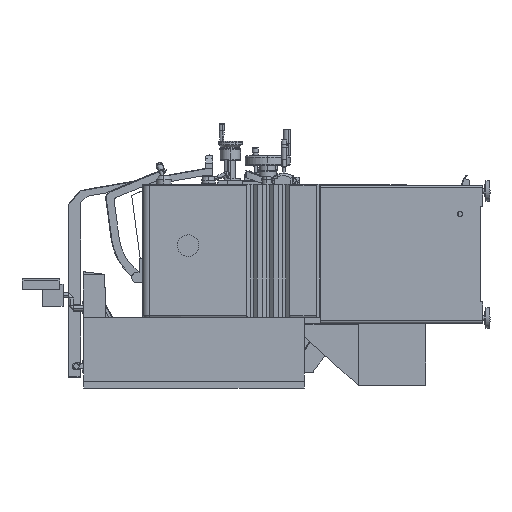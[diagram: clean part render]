
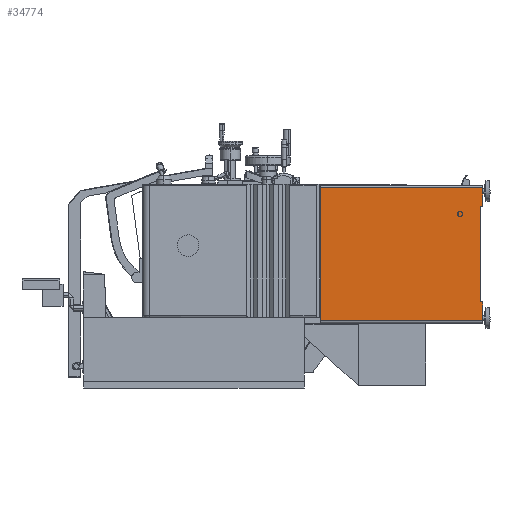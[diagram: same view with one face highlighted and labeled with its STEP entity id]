
A CAD part, left-side view. The second image highlights one B-rep face of the part: STEP entity #34774.
In plain terms, the highlighted planar face has unit normal (-1, 0, 0).
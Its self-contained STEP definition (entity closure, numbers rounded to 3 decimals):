
#936 = FACE_OUTER_BOUND ( 'NONE', #263981, .T. ) ;
#1186 = LINE ( 'NONE', #104452, #245798 ) ;
#4468 = DIRECTION ( 'NONE',  ( 0., 0., -1. ) ) ;
#5913 = CARTESIAN_POINT ( 'NONE',  ( -31.102, -33.661, -10.945 ) ) ;
#20290 = EDGE_CURVE ( 'NONE', #181302, #81983, #177793, .T. ) ;
#24485 = CARTESIAN_POINT ( 'NONE',  ( -31.102, -33.661, -7.795 ) ) ;
#27703 = ORIENTED_EDGE ( 'NONE', *, *, #220255, .F. ) ;
#33833 = LINE ( 'NONE', #207152, #198829 ) ;
#34774 = ADVANCED_FACE ( 'NONE', ( #936 ), #279183, .T. ) ;
#36386 = VERTEX_POINT ( 'NONE', #100042 ) ;
#39296 = ORIENTED_EDGE ( 'NONE', *, *, #90632, .F. ) ;
#46654 = CARTESIAN_POINT ( 'NONE',  ( -31.102, -33.661, 8.898 ) ) ;
#47705 = CARTESIAN_POINT ( 'NONE',  ( -31.102, -33.661, -10.945 ) ) ;
#65151 = EDGE_CURVE ( 'NONE', #81983, #80992, #139058, .T. ) ;
#66422 = CARTESIAN_POINT ( 'NONE',  ( -31.102, -9.921, 8.898 ) ) ;
#69639 = DIRECTION ( 'NONE',  ( 0., 0., -1. ) ) ;
#71042 = DIRECTION ( 'NONE',  ( 0., 0., 1. ) ) ;
#77296 = DIRECTION ( 'NONE',  ( 0., 1., 0. ) ) ;
#79380 = CARTESIAN_POINT ( 'NONE',  ( -31.102, -9.921, -10.551 ) ) ;
#80992 = VERTEX_POINT ( 'NONE', #257729 ) ;
#81983 = VERTEX_POINT ( 'NONE', #79380 ) ;
#88184 = VECTOR ( 'NONE', #162378, 39.37 ) ;
#90632 = EDGE_CURVE ( 'NONE', #172094, #173123, #33833, .T. ) ;
#99241 = VECTOR ( 'NONE', #69639, 39.37 ) ;
#100042 = CARTESIAN_POINT ( 'NONE',  ( -31.102, -33.661, -7.795 ) ) ;
#101814 = EDGE_CURVE ( 'NONE', #172094, #115355, #190531, .T. ) ;
#104452 = CARTESIAN_POINT ( 'NONE',  ( -31.102, -33.268, 6.142 ) ) ;
#104468 = VECTOR ( 'NONE', #215534, 39.37 ) ;
#104662 = ORIENTED_EDGE ( 'NONE', *, *, #328182, .F. ) ;
#113909 = CARTESIAN_POINT ( 'NONE',  ( -31.102, -33.661, -10.945 ) ) ;
#115355 = VERTEX_POINT ( 'NONE', #46654 ) ;
#132510 = DIRECTION ( 'NONE',  ( 0., 0., 1. ) ) ;
#139058 = LINE ( 'NONE', #310791, #88184 ) ;
#142563 = VECTOR ( 'NONE', #132510, 39.37 ) ;
#155417 = VECTOR ( 'NONE', #307635, 39.37 ) ;
#157498 = LINE ( 'NONE', #5913, #142563 ) ;
#162378 = DIRECTION ( 'NONE',  ( 0., -1., 0. ) ) ;
#163228 = EDGE_CURVE ( 'NONE', #80992, #36386, #157498, .T. ) ;
#167990 = DIRECTION ( 'NONE',  ( 0., 1., 0. ) ) ;
#172094 = VERTEX_POINT ( 'NONE', #314931 ) ;
#173123 = VERTEX_POINT ( 'NONE', #215010 ) ;
#177793 = LINE ( 'NONE', #297888, #99241 ) ;
#181302 = VERTEX_POINT ( 'NONE', #240214 ) ;
#190531 = LINE ( 'NONE', #113909, #104468 ) ;
#198829 = VECTOR ( 'NONE', #77296, 39.37 ) ;
#200918 = DIRECTION ( 'NONE',  ( -1., 0., 0. ) ) ;
#207152 = CARTESIAN_POINT ( 'NONE',  ( -31.102, -33.661, 6.142 ) ) ;
#209313 = EDGE_CURVE ( 'NONE', #115355, #181302, #243008, .T. ) ;
#211340 = AXIS2_PLACEMENT_3D ( 'NONE', #47705, #200918, #71042 ) ;
#215010 = CARTESIAN_POINT ( 'NONE',  ( -31.102, -33.268, 6.142 ) ) ;
#215534 = DIRECTION ( 'NONE',  ( 0., 0., 1. ) ) ;
#220255 = EDGE_CURVE ( 'NONE', #222749, #36386, #309273, .T. ) ;
#221639 = ORIENTED_EDGE ( 'NONE', *, *, #163228, .T. ) ;
#222749 = VERTEX_POINT ( 'NONE', #258591 ) ;
#240214 = CARTESIAN_POINT ( 'NONE',  ( -31.102, -9.921, 8.898 ) ) ;
#243008 = LINE ( 'NONE', #66422, #287146 ) ;
#244119 = ORIENTED_EDGE ( 'NONE', *, *, #65151, .T. ) ;
#245798 = VECTOR ( 'NONE', #4468, 39.37 ) ;
#257729 = CARTESIAN_POINT ( 'NONE',  ( -31.102, -33.661, -10.551 ) ) ;
#258591 = CARTESIAN_POINT ( 'NONE',  ( -31.102, -33.268, -7.795 ) ) ;
#263981 = EDGE_LOOP ( 'NONE', ( #314975, #244119, #221639, #27703, #104662, #39296, #326992, #295455 ) ) ;
#279183 = PLANE ( 'NONE',  #211340 ) ;
#287146 = VECTOR ( 'NONE', #167990, 39.37 ) ;
#295455 = ORIENTED_EDGE ( 'NONE', *, *, #209313, .T. ) ;
#297888 = CARTESIAN_POINT ( 'NONE',  ( -31.102, -9.921, -10.512 ) ) ;
#307635 = DIRECTION ( 'NONE',  ( 0., -1., 0. ) ) ;
#309273 = LINE ( 'NONE', #24485, #155417 ) ;
#310791 = CARTESIAN_POINT ( 'NONE',  ( -31.102, -33.661, -10.551 ) ) ;
#314931 = CARTESIAN_POINT ( 'NONE',  ( -31.102, -33.661, 6.142 ) ) ;
#314975 = ORIENTED_EDGE ( 'NONE', *, *, #20290, .T. ) ;
#326992 = ORIENTED_EDGE ( 'NONE', *, *, #101814, .T. ) ;
#328182 = EDGE_CURVE ( 'NONE', #173123, #222749, #1186, .T. ) ;
